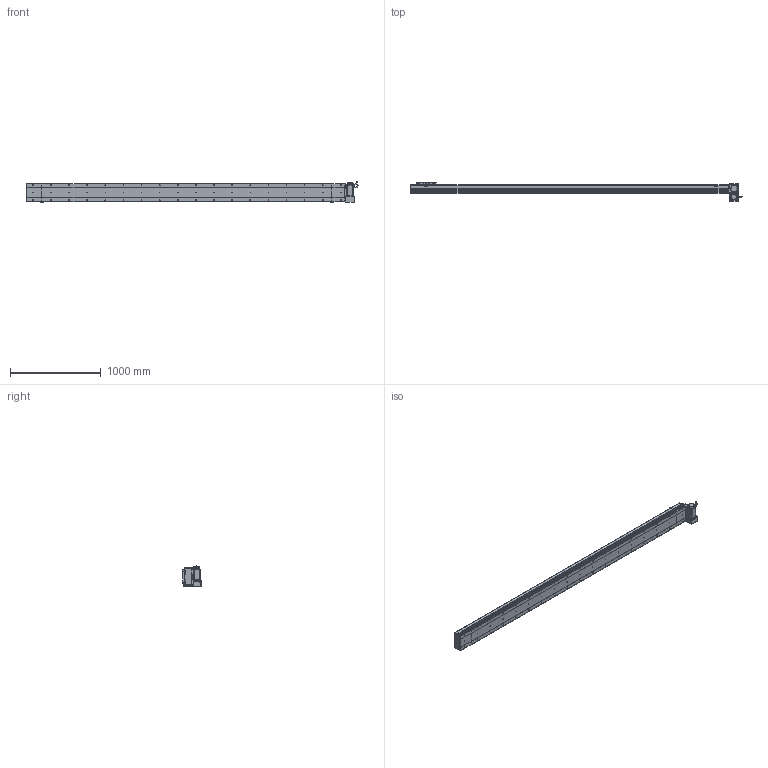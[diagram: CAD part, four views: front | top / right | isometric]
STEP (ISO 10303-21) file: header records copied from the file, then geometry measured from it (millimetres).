
FILE_DESCRIPTION (( 'STEP AP214' ), '1' );
FILE_NAME ('D20 CBH RU S3200.STEP', '2010-06-30T10:44:47', ( 'Conseil Régional Haute-Normandie' ), ( 'Conseil Régional Haute-Normandie' ), 'SwSTEP 2.0', 'SolidWorks 2010', '' );
FILE_SCHEMA (( 'AUTOMOTIVE_DESIGN' ));
Length unit declared in the file: millimetre
Products named in the file (31): codeur 90BLDC125-640; Tail D20_Default; Glissiere_Default; Chariot D20_Default; Corp S3200_Default; Corp D20 S3200_Default; vis M5 L47_Default; Support Chariot D20_Default; Couvercle S3200_Default; Corp Tail D20_Default; ecrou_Default; vis M5 L30_Default; Conecteur_Default; Conecteur2_Default; Plaque de Bout Tail D20_Default; Plaque De Serrage D20_Default; Couvercle_Default; vis M5 L15_Default; Plaque de Bout Head D20 RU_Default; Head RU_Default; D20 CBH RU S3200; Couvercle RU_Default; Corp Tail D20 RU_Default; Support moteur RU_Default; Rondelle Cache D20 RU_Default; Cache Support Moteur RU_Default; Plaque De Serrage D20 RU_Default; corps 90BLDC125A-640; avant 90BLDC125A-640; Moteur motionking 90BLDC125A-640
Assembly tree (66 placements, depth 4):
  D20 CBH RU S3200
    Tail D20_Default
      Plaque De Serrage D20_Default
      vis M5 L15_Default  x6
      Plaque de Bout Tail D20_Default
      Couvercle_Default
      Corp Tail D20_Default
    Chariot D20_Default
      vis M5 L15_Default  x8
      Support Chariot D20_Default
      Glissiere_Default
      Chariot D20_Default
    Head RU_Default
      vis M5 L15_Default  x12
      vis M5 L47_Default  x4
      Cache Support Moteur RU_Default
      Plaque De Serrage D20 RU_Default
      Rondelle Cache D20 RU_Default  x3
      vis M5 L30_Default  x4
      ecrou_Default  x4
      Corp Tail D20 RU_Default
      Plaque de Bout Head D20 RU_Default
      Moteur motionking 90BLDC125A-640
        avant 90BLDC125A-640
        codeur 90BLDC125-640
        Conecteur_Default
        Conecteur2_Default
        corps 90BLDC125A-640
      Support moteur RU_Default
      Couvercle RU_Default
    Corp D20 S3200_Default
      Couvercle S3200_Default
      Corp S3200_Default
Bounding box: 3664.45 x 209 x 229.7 mm (x, y, z)
Volume: 24504854.1 mm3; surface area: 4701771 mm2
Topology: 103 solids, 103 shells, 3823 faces, 9506 edges, 6178 vertices
Faces by surface type: plane 2114, bspline 806, cylinder 740, torus 91, cone 68, sphere 4
Entity records: 160846 total; most frequent: CARTESIAN_POINT 82545, ORIENTED_EDGE 15480, DIRECTION 11898, EDGE_CURVE 7740, VERTEX_POINT 5122, VECTOR 4972, LINE 4972, AXIS2_PLACEMENT_3D 3463
